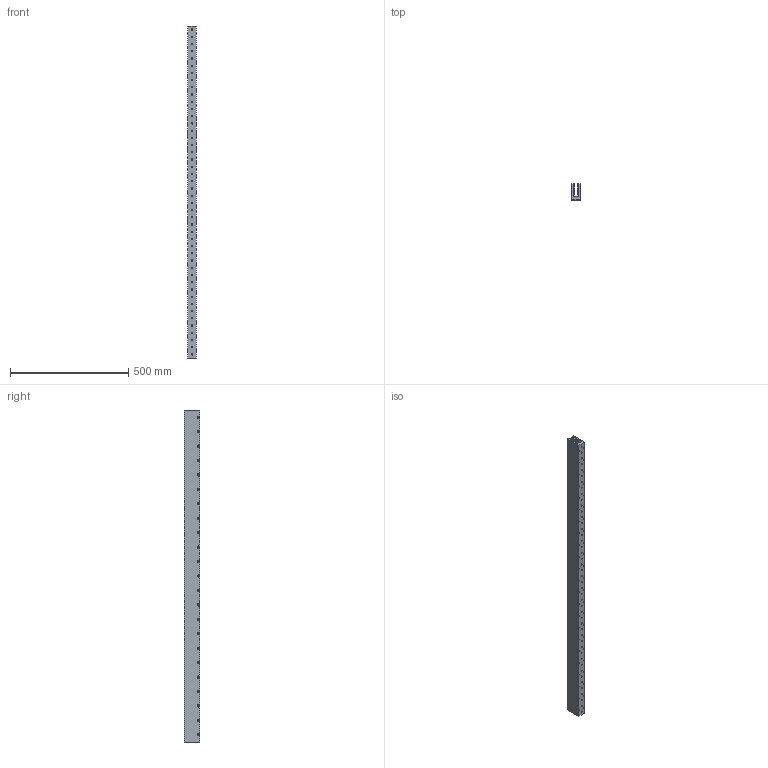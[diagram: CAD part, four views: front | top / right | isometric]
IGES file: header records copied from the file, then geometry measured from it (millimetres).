
Global section: file name: No Iges File Name specified; native system: Autodesk Inventor 2012; preprocessor: AutoDesk Inventor Iges Exporter R2012; author: je17857; date: 20120511.155338; units: inch
Bounding box: 34.29 x 67.31 x 1401.83 mm (x, y, z)
Volume: 2066445.7 mm3; surface area: 539176.6 mm2
Topology: 1 solids, 1 shells, 677 faces, 1565 edges, 1051 vertices
Faces by surface type: plane 539, revolution 138
